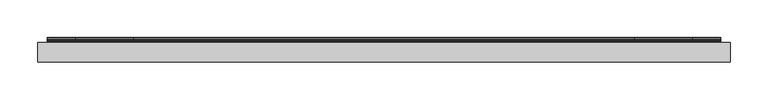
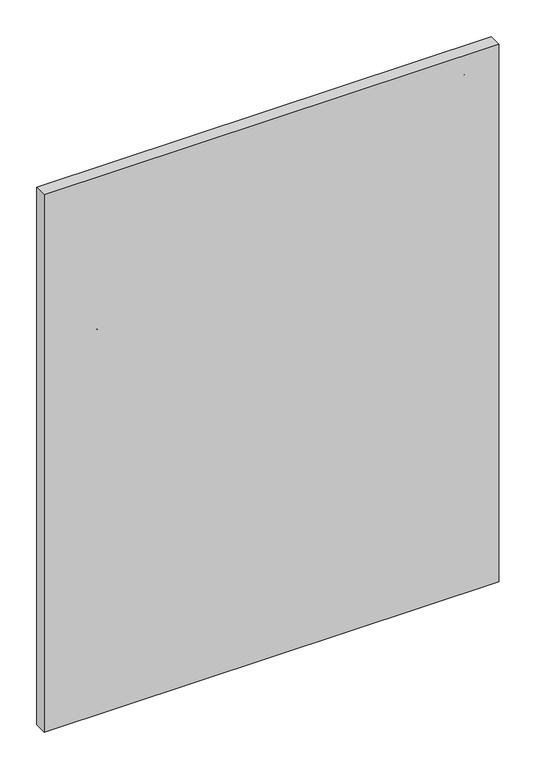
"""IFC4 building model written with IfcOpenShell, lengths in millimetres: furniture geometry, Geiger_GeigerOneCasegoods_WallTileTopTileorWallMountedWhiteM : 36Wx 1.25Dx 45H."""

from ifc_helpers import new_model, si_unit, point, frame, frame_2d, origin, origin_with_axes, place, context, project, spatial, polyline, circle_curve, trimmed, segment, composite_curve, outline, extrude, source, transform, mapped, element, save


def furniture_9ae07bf0(model_context):
    return source(origin(), model_context, "Body", "SweptSolid", [
        extrude(outline(composite_curve([segment(polyline([(2.8948, 38.2458), (2.8948, 31.3116), (3.7076, 30.5242), (5.6126, 30.5242), (6.4, 29.7114), (6.4, -1.9878), (5.1046, -1.9878), (3.5044, -0.3876), (3.5044, 24.1996), (2.6916, 25.0124), (0.812, 25.0124), (-0.0008, 25.7998), (-0.0008, 39.211)]), True, "CONTINUOUS"), segment(trimmed(circle_curve(frame_2d((0.8026421, 39.2016421)), 0.8034966), [point((-0.0008, 39.211))], [point((1.3708, 39.7698))], False, "CARTESIAN"), True, "CONTINUOUS"), segment(polyline([(1.3708, 39.7698), (2.8948, 38.2458)]), True, "CONTINUOUS")], self_intersect=False)), frame((12.5, 0.0, 0.0), z_axis=(1.0, 0.0, 0.0), x_axis=(0.0, 1.0, 0.0)), (0.0, 0.0, 1.0), 888.8),
        extrude(outline(composite_curve([segment(polyline([(2.8956, 46.3366), (3.7084, 45.5238), (5.588, 45.5238), (6.4008, 44.7364), (6.4008, 31.3252)]), True, "CONTINUOUS"), segment(trimmed(circle_curve(frame_2d((5.6011704, 31.3252)), 0.7996296), [point((6.4008, 31.3252))], [point((5.0292, 30.7664))], False, "CARTESIAN"), True, "CONTINUOUS"), segment(polyline([(5.0292, 30.7664), (3.5052, 32.2904), (3.5052, 39.2246), (2.6924, 40.012), (0.7874, 40.012), (0.0, 40.8248), (0.0, 72.524), (1.2954, 72.524), (2.8956, 70.9238), (2.8956, 46.3366)]), True, "CONTINUOUS")], self_intersect=False)), frame((787.8, 0.0, 0.0), z_axis=(1.0, 0.0, 0.0), x_axis=(0.0, 1.0, 0.0)), (0.0, 0.0, 1.0), 76.0),
        extrude(outline(composite_curve([segment(polyline([(3.5052, 32.2904), (3.5052, 39.2246), (2.6924, 40.012), (0.7874, 40.012), (0.0, 40.8248), (0.0, 72.524), (1.2954, 72.524), (2.8956, 70.9238), (2.8956, 46.3366), (3.7084, 45.5238), (5.588, 45.5238), (6.4008, 44.7364), (6.4008, 31.3252)]), True, "CONTINUOUS"), segment(trimmed(circle_curve(frame_2d((5.6011704, 31.3252)), 0.7996296), [point((6.4008, 31.3252))], [point((5.0292, 30.7664))], False, "CARTESIAN"), True, "CONTINUOUS"), segment(polyline([(5.0292, 30.7664), (3.5052, 32.2904)]), True, "CONTINUOUS")], self_intersect=False)), frame((50.0, 0.0, 0.0), z_axis=(1.0, 0.0, 0.0), x_axis=(0.0, 1.0, 0.0)), (0.0, 0.0, 1.0), 76.0),
        extrude(outline(composite_curve([segment(polyline([(2.8956, 808.3386), (3.7084, 807.5258), (5.588, 807.5258), (6.4008, 806.7384), (6.4008, 793.3272)]), True, "CONTINUOUS"), segment(trimmed(circle_curve(frame_2d((5.6011704, 793.3272)), 0.7996296), [point((6.4008, 793.3272))], [point((5.0292, 792.7684))], False, "CARTESIAN"), True, "CONTINUOUS"), segment(polyline([(5.0292, 792.7684), (3.5052, 794.2924), (3.5052, 801.2266), (2.6924, 802.014), (0.7874, 802.014), (0.0, 802.8268), (0.0, 834.526), (1.2954, 834.526), (2.8956, 832.9258), (2.8956, 808.3386)]), True, "CONTINUOUS")], self_intersect=False)), frame((787.8, 0.0, 0.0), z_axis=(1.0, 0.0, 0.0), x_axis=(0.0, 1.0, 0.0)), (0.0, 0.0, 1.0), 76.0),
        extrude(outline(composite_curve([segment(polyline([(3.5052, 794.2924), (3.5052, 801.2266), (2.6924, 802.014), (0.7874, 802.014), (0.0, 802.8268), (0.0, 834.526), (1.2954, 834.526), (2.8956, 832.9258), (2.8956, 808.3386), (3.7084, 807.5258), (5.588, 807.5258), (6.4008, 806.7384), (6.4008, 793.3272)]), True, "CONTINUOUS"), segment(trimmed(circle_curve(frame_2d((5.6011704, 793.3272)), 0.7996296), [point((6.4008, 793.3272))], [point((5.0292, 792.7684))], False, "CARTESIAN"), True, "CONTINUOUS"), segment(polyline([(5.0292, 792.7684), (3.5052, 794.2924)]), True, "CONTINUOUS")], self_intersect=False)), frame((50.0, 0.0, 0.0), z_axis=(1.0, 0.0, 0.0), x_axis=(0.0, 1.0, 0.0)), (0.0, 0.0, 1.0), 76.0),
        extrude(outline(composite_curve([segment(polyline([(2.8948, 800.2478), (2.8948, 793.3136), (3.7076, 792.5262), (5.6126, 792.5262), (6.4, 791.7134), (6.4, 760.0142), (5.1046, 760.0142), (3.5044, 761.6144), (3.5044, 786.2016), (2.6916, 787.0144), (0.812, 787.0144), (-0.0008, 787.8018), (-0.0008, 801.213)]), True, "CONTINUOUS"), segment(trimmed(circle_curve(frame_2d((0.8026421, 801.2036421)), 0.8034966), [point((-0.0008, 801.213))], [point((1.3708, 801.7718))], False, "CARTESIAN"), True, "CONTINUOUS"), segment(polyline([(1.3708, 801.7718), (2.8948, 800.2478)]), True, "CONTINUOUS")], self_intersect=False)), frame((12.5, 0.0, 0.0), z_axis=(1.0, 0.0, 0.0), x_axis=(0.0, 1.0, 0.0)), (0.0, 0.0, 1.0), 888.8),
        extrude(outline(composite_curve([segment(polyline([(2.8956, 1090.8326), (3.7084, 1090.0198), (5.588, 1090.0198), (6.4008, 1089.2324), (6.4008, 1075.8212)]), True, "CONTINUOUS"), segment(trimmed(circle_curve(frame_2d((5.6011704, 1075.8212)), 0.7996296), [point((6.4008, 1075.8212))], [point((5.0292, 1075.2624))], False, "CARTESIAN"), True, "CONTINUOUS"), segment(polyline([(5.0292, 1075.2624), (3.5052, 1076.7864), (3.5052, 1083.7206), (2.6924, 1084.508), (0.7874, 1084.508), (0.0, 1085.3208), (0.0, 1117.02), (1.2954, 1117.02), (2.8956, 1115.4198), (2.8956, 1090.8326)]), True, "CONTINUOUS")], self_intersect=False)), frame((787.8, 0.0, 0.0), z_axis=(1.0, 0.0, 0.0), x_axis=(0.0, 1.0, 0.0)), (0.0, 0.0, 1.0), 76.0),
        extrude(outline(composite_curve([segment(polyline([(3.5052, 1076.7864), (3.5052, 1083.7206), (2.6924, 1084.508), (0.7874, 1084.508), (0.0, 1085.3208), (0.0, 1117.02), (1.2954, 1117.02), (2.8956, 1115.4198), (2.8956, 1090.8326), (3.7084, 1090.0198), (5.588, 1090.0198), (6.4008, 1089.2324), (6.4008, 1075.8212)]), True, "CONTINUOUS"), segment(trimmed(circle_curve(frame_2d((5.6011704, 1075.8212)), 0.7996296), [point((6.4008, 1075.8212))], [point((5.0292, 1075.2624))], False, "CARTESIAN"), True, "CONTINUOUS"), segment(polyline([(5.0292, 1075.2624), (3.5052, 1076.7864)]), True, "CONTINUOUS")], self_intersect=False)), frame((50.0, 0.0, 0.0), z_axis=(1.0, 0.0, 0.0), x_axis=(0.0, 1.0, 0.0)), (0.0, 0.0, 1.0), 76.0),
        extrude(outline(composite_curve([segment(polyline([(2.8948, 1082.7418), (2.8948, 1075.8076), (3.7076, 1075.0202), (5.6126, 1075.0202), (6.4, 1074.2074), (6.4, 1042.5082), (5.1046, 1042.5082), (3.5044, 1044.1084), (3.5044, 1068.6956), (2.6916, 1069.5084), (0.812, 1069.5084), (-0.0008, 1070.2958), (-0.0008, 1083.707)]), True, "CONTINUOUS"), segment(trimmed(circle_curve(frame_2d((0.8026421, 1083.6976421)), 0.8034966), [point((-0.0008, 1083.707))], [point((1.3708, 1084.2658))], False, "CARTESIAN"), True, "CONTINUOUS"), segment(polyline([(1.3708, 1084.2658), (2.8948, 1082.7418)]), True, "CONTINUOUS")], self_intersect=False)), frame((12.5, 0.0, 0.0), z_axis=(1.0, 0.0, 0.0), x_axis=(0.0, 1.0, 0.0)), (0.0, 0.0, 1.0), 888.8),
        extrude(outline(polyline([(913.8, 0.0), (913.8, -26.0), (0.0, -26.0), (0.0, 0.0), (913.8, 0.0)])), origin_with_axes(), (0.0, 0.0, 1.0), 1142.0),
    ])


if __name__ == "__main__":
    model = new_model("IFC4")
    model_context = context("Model", 3, world=origin())
    ifc_project = project(units=[si_unit("LENGTHUNIT", "METRE", prefix="MILLI")], contexts=[model_context])
    site = spatial("IfcSite", under=ifc_project)
    building = spatial("IfcBuilding", under=site)
    placement = place(None, origin())
    furniture_shape = furniture_9ae07bf0(model_context)
    element("IfcFurniture", 1, ObjectType="Geiger_GeigerOneCasegoods_WallTileTopTileorWallMountedWhiteM : 36Wx 1.25Dx 45H", at=placement, inside=building, context=model_context, shape_type="MappedRepresentation", body=[
        mapped(furniture_shape, transform((0.0, 0.0, 0.0), x_axis=(1.0, 0.0, 0.0), y_axis=(0.0, 1.0, 0.0), z_axis=(0.0, 0.0, 1.0))),
    ])
    save(model, "model.ifc")
